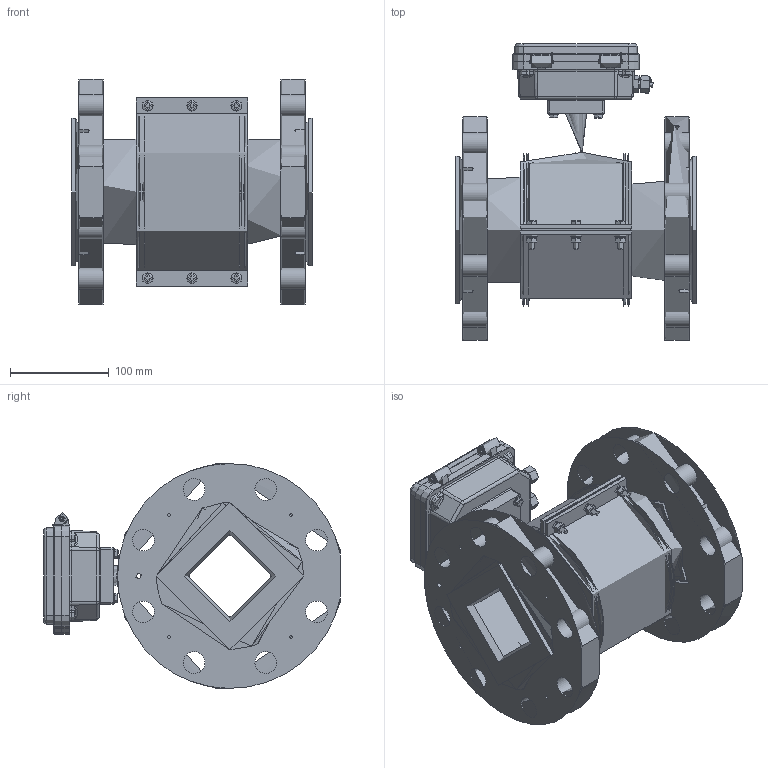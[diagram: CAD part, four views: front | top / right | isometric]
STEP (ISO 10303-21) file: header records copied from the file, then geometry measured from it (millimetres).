
FILE_DESCRIPTION(('STEP AP214'), '1');
FILE_NAME('Âçëåò ÝÐ ÏÐÎÔÈ DN100 Ôëàíåö', '', ('UNSPECIFIED'), ('UNSPECIFIED'), 'ASCON STEP Converter 1.6', 'ASCON Math Kernel', '');
FILE_SCHEMA(('AUTOMOTIVE_DESIGN { 1 0 10303 214 3 1 1}'));
Length unit declared in the file: millimetre
Products named in the file (1): 婽挭.407212.031-031.11
Bounding box: 244 x 301.01 x 228.5 mm (x, y, z)
Topology: 5 solids, 10 shells, 1374 faces, 3300 edges, 2009 vertices
Faces by surface type: plane 584, cylinder 422, cone 191, torus 139, bspline 38
Full cylindrical faces by diameter (mm): 0.8 x2, 2 x2, 3 x4, 3.242 x14, 3.3 x2, 3.7 x8, 4 x8, 4.134 x2, 4.917 x6, 5 x1, 5.5 x1, 6 x10, 6.3 x2, 6.4 x6, 7 x22, 7.5 x2, 8 x2, 10 x4, 11 x6, 12 x8, 12.5 x2, 16.5 x2, 18 x1, 19 x1, 20 x1, 21 x1, 22 x16, 25 x1, 30 x1, 85 x1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
Entity records: 71037 total; most frequent: CARTESIAN_POINT 24073, DIRECTION 6628, ORIENTED_EDGE 5882, EDGE_CURVE 2941, AXIS2_PLACEMENT_3D 2656, VERTEX_POINT 1977, EDGE_LOOP 1888, FACE_BOUND 1419
